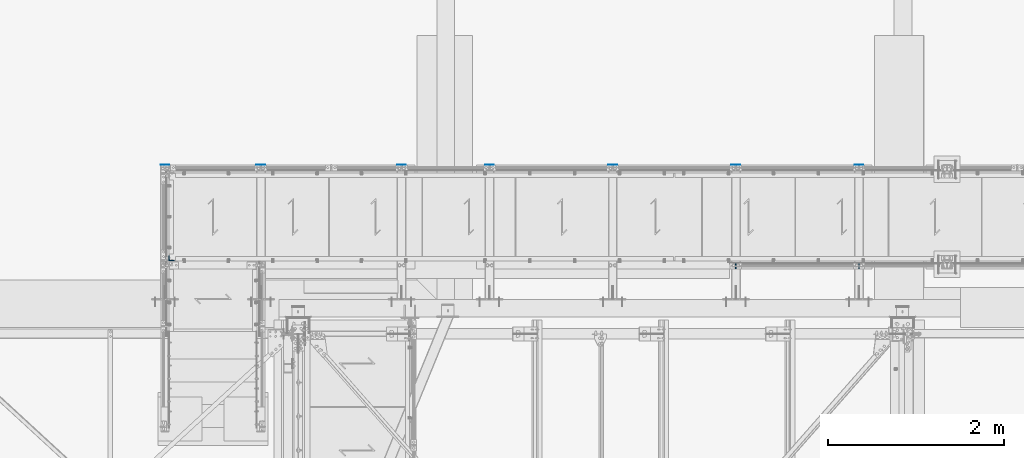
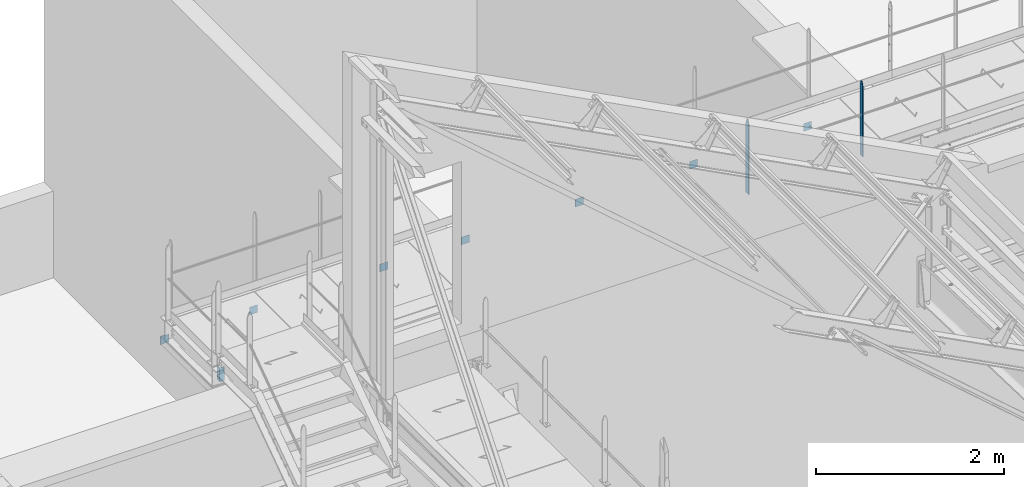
# One storey, part 34 of 362: 10 columns, 10 elements without a shape of their own.
"""IFC2X3 building model written with IfcOpenShell, lengths in millimetres."""

from ifc_helpers import new_model, si_unit, frame, origin_with_axes, origin_2d_with_axis, place, context, subcontext, project, spatial, rectangle, l_section, extrude, clip, halfspace, material, type_object, element, aggregate, save


model = new_model("IFC2X3")

# Units and contexts
model_context = context("Model", 3, precision=1e-05, world=origin_with_axes())
body_context = subcontext(model_context, "Body", "Model", "MODEL_VIEW")
ifc_project = project(units=[si_unit("LENGTHUNIT", "METRE", prefix="MILLI"), si_unit("AREAUNIT", "SQUARE_METRE"), si_unit("VOLUMEUNIT", "CUBIC_METRE"), si_unit("MASSUNIT", "GRAM", prefix="KILO"), si_unit("TIMEUNIT", "SECOND"), si_unit("PLANEANGLEUNIT", "RADIAN"), si_unit("SOLIDANGLEUNIT", "STERADIAN"), si_unit("THERMODYNAMICTEMPERATUREUNIT", "DEGREE_CELSIUS"), si_unit("LUMINOUSINTENSITYUNIT", "LUMEN")], contexts=[model_context])

# Site, building, storey
site_placement = place(None, origin_with_axes())
site = spatial("IfcSite", under=ifc_project, at=site_placement, Name="Undefined", CompositionType="ELEMENT")
building_placement = place(site_placement, origin_with_axes())
building = spatial("IfcBuilding", under=site, at=building_placement, Name="Undefined", CompositionType="ELEMENT")
storey_placement = place(building_placement, origin_with_axes())
storey = spatial("IfcBuildingStorey", under=building, at=storey_placement, Name="Undefined", CompositionType="ELEMENT", Elevation=0.0)

# Assembly, column
assembly_1_placement = place(storey_placement, origin_with_axes())
assembly_1 = element("IfcElementAssembly", 1, at=assembly_1_placement, inside=storey, Name="MONTANT", AssemblyPlace="NOTDEFINED", PredefinedType="NOTDEFINED")
ifc_material_1 = material(Name="Undefined/S235-E24")
column_type_1 = type_object("IfcColumnType", Name="PL10*60", PredefinedType="NOTDEFINED")
column_1_placement = place(assembly_1_placement, frame((17654.9961849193, 15970.0000882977, 9677.59999847), z_axis=(0.0, 0.0, -1.0), x_axis=(0.0, 1.0, 0.0)))
column_1 = element("IfcColumn", 2, at=column_1_placement, type_object=column_type_1, material=ifc_material_1, Name="MONTANT", ObjectType="PL10*60", context=body_context, shape_type="Clipping", body=[
    clip(clip(extrude(rectangle(XDim=10.0, YDim=60.0, at=origin_2d_with_axis()), frame((0.0, 0.0, 967.599998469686), z_axis=(0.0, 0.0, -1.0), x_axis=(0.0, 1.0, 0.0)), (0.0, 0.0, 1.0), 967.6), halfspace(frame((-30.0, 5.0, -120.0), z_axis=(0.948683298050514, 0.0, -0.316227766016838), x_axis=(0.0, -1.0, 0.0)), False)), halfspace(frame((-30.0, 5.0, 60.0), z_axis=(-0.948683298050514, 0.0, -0.316227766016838), x_axis=(0.0, -1.0, 0.0)), False)),
])
aggregate(assembly_1, [column_1])

assembly_2_placement = place(storey_placement, origin_with_axes())
assembly_2 = element("IfcElementAssembly", 3, at=assembly_2_placement, inside=storey, Name="MAIN COURANTE", AssemblyPlace="NOTDEFINED", PredefinedType="NOTDEFINED")
column_2_placement = place(assembly_2_placement, frame((19054.9961849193, 15970.0000882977, 9677.59999847), z_axis=(0.0, 0.0, -1.0), x_axis=(0.0, 1.0, 0.0)))
column_2 = element("IfcColumn", 4, at=column_2_placement, type_object=column_type_1, material=ifc_material_1, Name="MONTANT", ObjectType="PL10*60", context=body_context, shape_type="Clipping", body=[
    clip(clip(extrude(rectangle(XDim=10.0, YDim=60.0, at=origin_2d_with_axis()), frame((0.0, 0.0, 967.599998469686), z_axis=(0.0, 0.0, -1.0), x_axis=(0.0, 1.0, 0.0)), (0.0, 0.0, 1.0), 967.6), halfspace(frame((-30.0, 5.0, -120.0), z_axis=(0.948683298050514, 0.0, -0.316227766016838), x_axis=(0.0, -1.0, 0.0)), False)), halfspace(frame((-30.0, 5.0, 60.0), z_axis=(-0.948683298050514, 0.0, -0.316227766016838), x_axis=(0.0, -1.0, 0.0)), False)),
])
aggregate(assembly_2, [column_2])

assembly_3_placement = place(storey_placement, origin_with_axes())
assembly_3 = element("IfcElementAssembly", 5, at=assembly_3_placement, inside=storey, AssemblyPlace="NOTDEFINED", PredefinedType="NOTDEFINED")
column_type_2 = type_object("IfcColumnType", Name="L60*6", PredefinedType="NOTDEFINED")
column_3_placement = place(assembly_3_placement, frame((11240.0061851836, 16059.9864192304, 8480.0), z_axis=(0.0, 0.0, 1.0), x_axis=(1.0, 0.0, 0.0)))
column_3 = element("IfcColumn", 6, at=column_3_placement, type_object=column_type_2, material=ifc_material_1, Name="ATTACHE", ObjectType="L60*6", context=body_context, shape_type="SweptSolid", body=[
    extrude(l_section(Depth=60.0, Width=60.0, Thickness=6.0, FilletRadius=8.0, EdgeRadius=4.0, at=origin_2d_with_axis()), frame((0.0, 0.0, 180.0), z_axis=(0.0, 0.0, -1.0), x_axis=(0.0, 1.0, 0.0)), (0.0, 0.0, 1.0), 180.0),
])
aggregate(assembly_3, [column_3])

assembly_4_placement = place(storey_placement, origin_with_axes())
assembly_4 = element("IfcElementAssembly", 7, at=assembly_4_placement, inside=storey, Name="Steel Assembly", AssemblyPlace="NOTDEFINED", PredefinedType="NOTDEFINED")
ifc_material_2 = material(Name="MISCELLANEOUS/PVC")
column_type_3 = type_object("IfcColumnType", Name="PL2*100", PredefinedType="NOTDEFINED")
column_4_placement = place(assembly_4_placement, frame((19055.0007605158, 17120.9898767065, 8339.99625956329), z_axis=(0.0, 3.70330000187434e-05, 0.999999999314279), x_axis=(-1.0, 0.0, 0.0)))
column_4 = element("IfcColumn", 8, at=column_4_placement, type_object=column_type_3, material=ifc_material_2, Name="OBTURATEUR", ObjectType="PL2*100", context=body_context, shape_type="SweptSolid", body=[
    extrude(rectangle(XDim=2.0, YDim=100.0, at=origin_2d_with_axis()), frame((0.0, -6.77651453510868e-19, 100.003703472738), z_axis=(0.0, 0.0, -1.0), x_axis=(0.0, 1.0, 0.0)), (0.0, 0.0, 1.0), 100.0),
])
aggregate(assembly_4, [column_4])

assembly_5_placement = place(storey_placement, origin_with_axes())
assembly_5 = element("IfcElementAssembly", 9, at=assembly_5_placement, inside=storey, Name="Steel Assembly", AssemblyPlace="NOTDEFINED", PredefinedType="NOTDEFINED")
column_5_placement = place(assembly_5_placement, frame((17655.0007605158, 17120.9898767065, 8339.99625956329), z_axis=(0.0, 3.70330000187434e-05, 0.999999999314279), x_axis=(-1.0, 0.0, 0.0)))
column_5 = element("IfcColumn", 10, at=column_5_placement, type_object=column_type_3, material=ifc_material_2, Name="OBTURATEUR", ObjectType="PL2*100", context=body_context, shape_type="SweptSolid", body=[
    extrude(rectangle(XDim=2.0, YDim=100.0, at=origin_2d_with_axis()), frame((0.0, -6.77651453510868e-19, 100.003703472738), z_axis=(0.0, 0.0, -1.0), x_axis=(0.0, 1.0, 0.0)), (0.0, 0.0, 1.0), 100.0),
])
aggregate(assembly_5, [column_5])

assembly_6_placement = place(storey_placement, origin_with_axes())
assembly_6 = element("IfcElementAssembly", 11, at=assembly_6_placement, inside=storey, Name="Steel Assembly", AssemblyPlace="NOTDEFINED", PredefinedType="NOTDEFINED")
column_6_placement = place(assembly_6_placement, frame((16255.0007605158, 17120.9898767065, 8339.99625956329), z_axis=(0.0, 3.70330000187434e-05, 0.999999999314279), x_axis=(-1.0, 0.0, 0.0)))
column_6 = element("IfcColumn", 12, at=column_6_placement, type_object=column_type_3, material=ifc_material_2, Name="OBTURATEUR", ObjectType="PL2*100", context=body_context, shape_type="SweptSolid", body=[
    extrude(rectangle(XDim=2.0, YDim=100.0, at=origin_2d_with_axis()), frame((0.0, -6.77651453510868e-19, 100.003703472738), z_axis=(0.0, 0.0, -1.0), x_axis=(0.0, 1.0, 0.0)), (0.0, 0.0, 1.0), 100.0),
])
aggregate(assembly_6, [column_6])

assembly_7_placement = place(storey_placement, origin_with_axes())
assembly_7 = element("IfcElementAssembly", 13, at=assembly_7_placement, inside=storey, Name="Steel Assembly", AssemblyPlace="NOTDEFINED", PredefinedType="NOTDEFINED")
column_7_placement = place(assembly_7_placement, frame((14855.0007605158, 17120.9898767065, 8339.99625956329), z_axis=(0.0, 3.70330000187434e-05, 0.999999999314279), x_axis=(-1.0, 0.0, 0.0)))
column_7 = element("IfcColumn", 14, at=column_7_placement, type_object=column_type_3, material=ifc_material_2, Name="OBTURATEUR", ObjectType="PL2*100", context=body_context, shape_type="SweptSolid", body=[
    extrude(rectangle(XDim=2.0, YDim=100.0, at=origin_2d_with_axis()), frame((0.0, -6.77651453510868e-19, 100.003703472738), z_axis=(0.0, 0.0, -1.0), x_axis=(0.0, 1.0, 0.0)), (0.0, 0.0, 1.0), 100.0),
])
aggregate(assembly_7, [column_7])

assembly_8_placement = place(storey_placement, origin_with_axes())
assembly_8 = element("IfcElementAssembly", 15, at=assembly_8_placement, inside=storey, Name="Steel Assembly", AssemblyPlace="NOTDEFINED", PredefinedType="NOTDEFINED")
column_8_placement = place(assembly_8_placement, frame((13855.0007605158, 17120.9898767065, 8339.99625956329), z_axis=(0.0, 3.70330000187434e-05, 0.999999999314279), x_axis=(-1.0, 0.0, 0.0)))
column_8 = element("IfcColumn", 16, at=column_8_placement, type_object=column_type_3, material=ifc_material_2, Name="OBTURATEUR", ObjectType="PL2*100", context=body_context, shape_type="SweptSolid", body=[
    extrude(rectangle(XDim=2.0, YDim=100.0, at=origin_2d_with_axis()), frame((0.0, -6.77651453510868e-19, 100.003703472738), z_axis=(0.0, 0.0, -1.0), x_axis=(0.0, 1.0, 0.0)), (0.0, 0.0, 1.0), 100.0),
])
aggregate(assembly_8, [column_8])

assembly_9_placement = place(storey_placement, origin_with_axes())
assembly_9 = element("IfcElementAssembly", 17, at=assembly_9_placement, inside=storey, Name="Steel Assembly", AssemblyPlace="NOTDEFINED", PredefinedType="NOTDEFINED")
column_9_placement = place(assembly_9_placement, frame((12255.0007605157, 17120.9898771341, 8339.99625956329), z_axis=(0.0, 3.70330000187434e-05, 0.999999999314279), x_axis=(-1.0, 0.0, 0.0)))
column_9 = element("IfcColumn", 18, at=column_9_placement, type_object=column_type_3, material=ifc_material_2, Name="OBTURATEUR", ObjectType="PL2*100", context=body_context, shape_type="SweptSolid", body=[
    extrude(rectangle(XDim=2.0, YDim=100.0, at=origin_2d_with_axis()), frame((0.0, -6.77651453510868e-19, 100.003703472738), z_axis=(0.0, 0.0, -1.0), x_axis=(0.0, 1.0, 0.0)), (0.0, 0.0, 1.0), 100.0),
])
aggregate(assembly_9, [column_9])

assembly_10_placement = place(storey_placement, origin_with_axes())
assembly_10 = element("IfcElementAssembly", 19, at=assembly_10_placement, inside=storey, Name="Steel Assembly", AssemblyPlace="NOTDEFINED", PredefinedType="NOTDEFINED")
column_10_placement = place(assembly_10_placement, frame((11165.003985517, 17120.9898774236, 8339.99625956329), z_axis=(0.0, 3.70330000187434e-05, 0.999999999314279), x_axis=(-1.0, 0.0, 0.0)))
column_10 = element("IfcColumn", 20, at=column_10_placement, type_object=column_type_3, material=ifc_material_2, Name="OBTURATEUR", ObjectType="PL2*100", context=body_context, shape_type="SweptSolid", body=[
    extrude(rectangle(XDim=2.0, YDim=100.0, at=origin_2d_with_axis()), frame((0.0, -6.77651453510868e-19, 100.003703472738), z_axis=(0.0, 0.0, -1.0), x_axis=(0.0, 1.0, 0.0)), (0.0, 0.0, 1.0), 100.0),
])
aggregate(assembly_10, [column_10])

save(model, "model.ifc")
